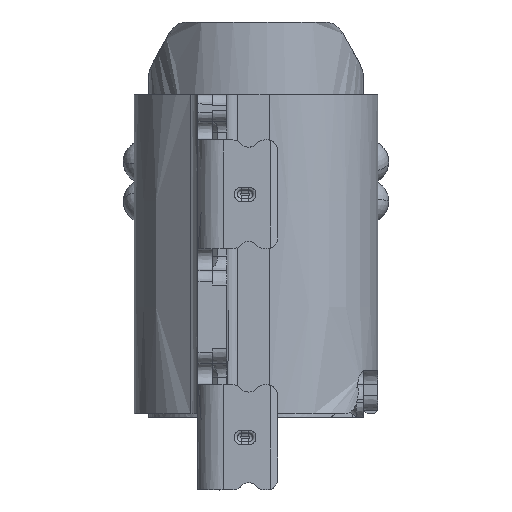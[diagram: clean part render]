
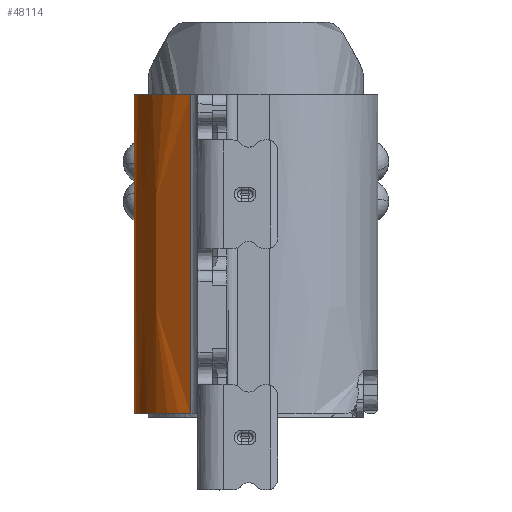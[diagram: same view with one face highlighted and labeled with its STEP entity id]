
A CAD part, left-side view. The second image highlights one B-rep face of the part: STEP entity #48114.
In plain terms, the highlighted free-form (B-spline) face has degree [3, 3] with [8, 4] control points.
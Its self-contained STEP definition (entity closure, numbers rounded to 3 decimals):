
#769 = CARTESIAN_POINT ( 'NONE',  ( -4.514, 0.904, 4.2 ) ) ;
#3689 = CARTESIAN_POINT ( 'NONE',  ( -4.478, 0.974, 1.237 ) ) ;
#4418 = CARTESIAN_POINT ( 'NONE',  ( -4.109, 1.389, 2.763 ) ) ;
#4727 = B_SPLINE_CURVE_WITH_KNOTS ( 'NONE', 3,
 ( #134774, #78857, #34178, #76667, #65496, #78129 ),
 .UNSPECIFIED., .F., .F.,
 ( 4, 2, 4 ),
 ( 0., 0.5, 1. ),
 .UNSPECIFIED. ) ;
#8643 = B_SPLINE_CURVE_WITH_KNOTS ( 'NONE', 3,
 ( #99159, #131973, #108855, #109605 ),
 .UNSPECIFIED., .F., .F.,
 ( 4, 4 ),
 ( 0., 1. ),
 .UNSPECIFIED. ) ;
#15620 = CARTESIAN_POINT ( 'NONE',  ( -3.82, 1.559, 4.288 ) ) ;
#23651 = CARTESIAN_POINT ( 'NONE',  ( -3.2, 1.68, 4.2 ) ) ;
#26806 = CARTESIAN_POINT ( 'NONE',  ( -3.168, 1.68, 2.763 ) ) ;
#34178 = CARTESIAN_POINT ( 'NONE',  ( -4.194, 1.335, 4.2 ) ) ;
#35551 = CARTESIAN_POINT ( 'NONE',  ( -4.384, 1.139, -0.2 ) ) ;
#37267 = CARTESIAN_POINT ( 'NONE',  ( -3.279, 1.682, 2.763 ) ) ;
#38586 = ORIENTED_EDGE ( 'NONE', *, *, #50860, .F. ) ;
#39462 = CARTESIAN_POINT ( 'NONE',  ( -4.353, 1.159, -0.288 ) ) ;
#40356 = VERTEX_POINT ( 'NONE', #67581 ) ;
#45319 = EDGE_CURVE ( 'NONE', #88443, #145359, #48064, .T. ) ;
#46287 = ORIENTED_EDGE ( 'NONE', *, *, #45319, .F. ) ;
#48064 = B_SPLINE_CURVE_WITH_KNOTS ( 'NONE', 3,
 ( #69062, #114502, #93628, #137620, #35551, #80972 ),
 .UNSPECIFIED., .F., .F.,
 ( 4, 2, 4 ),
 ( 0., 0.5, 1. ),
 .UNSPECIFIED. ) ;
#48114 = ADVANCED_FACE ( 'NONE', ( #128867 ), #76878, .F. ) ;
#48176 = CARTESIAN_POINT ( 'NONE',  ( -3.2, 1.68, -0.2 ) ) ;
#49181 = CARTESIAN_POINT ( 'NONE',  ( -3.501, 1.662, 1.237 ) ) ;
#49908 = CARTESIAN_POINT ( 'NONE',  ( -4.353, 1.159, 2.763 ) ) ;
#50528 = VERTEX_POINT ( 'NONE', #769 ) ;
#50860 = EDGE_CURVE ( 'NONE', #50528, #40356, #4727, .T. ) ;
#53609 = EDGE_CURVE ( 'NONE', #40356, #88443, #83757, .T. ) ;
#59648 = CARTESIAN_POINT ( 'NONE',  ( -4.478, 0.974, 4.288 ) ) ;
#60378 = CARTESIAN_POINT ( 'NONE',  ( -3.168, 1.68, 4.288 ) ) ;
#60976 = CARTESIAN_POINT ( 'NONE',  ( -4.514, 0.904, -0.2 ) ) ;
#61107 = CARTESIAN_POINT ( 'NONE',  ( -4.353, 1.159, 4.288 ) ) ;
#65496 = CARTESIAN_POINT ( 'NONE',  ( -3.468, 1.68, 4.2 ) ) ;
#67322 = CARTESIAN_POINT ( 'NONE',  ( -3.2, 1.68, -0.2 ) ) ;
#67581 = CARTESIAN_POINT ( 'NONE',  ( -3.2, 1.68, 4.2 ) ) ;
#69062 = CARTESIAN_POINT ( 'NONE',  ( -3.2, 1.68, -0.2 ) ) ;
#70779 = CARTESIAN_POINT ( 'NONE',  ( -4.353, 1.159, 1.237 ) ) ;
#71512 = CARTESIAN_POINT ( 'NONE',  ( -4.529, 0.875, 1.237 ) ) ;
#72241 = CARTESIAN_POINT ( 'NONE',  ( -3.501, 1.662, -0.288 ) ) ;
#74950 = ORIENTED_EDGE ( 'NONE', *, *, #121111, .T. ) ;
#76667 = CARTESIAN_POINT ( 'NONE',  ( -3.732, 1.608, 4.2 ) ) ;
#76878 = B_SPLINE_SURFACE_WITH_KNOTS ( 'NONE', 3, 3, ( 
 ( #96078, #84160, #26806, #60378 ),
 ( #141528, #96820, #37267, #95343 ),
 ( #72241, #49181, #107965, #117659 ),
 ( #85629, #105767, #131095, #15620 ),
 ( #139346, #93886, #4418, #140796 ),
 ( #39462, #70779, #49908, #61107 ),
 ( #129618, #3689, #116209, #59648 ),
 ( #84901, #71512, #116938, #130357 ) ),
 .UNSPECIFIED., .F., .F., .F.,
 ( 4, 1, 1, 1, 1, 4 ),
 ( 4, 4 ),
 ( 1.549, 1.771, 1.994, 2.216, 2.438, 2.66 ),
 ( 0., 4.576 ),
 .UNSPECIFIED. ) ;
#77750 = EDGE_LOOP ( 'NONE', ( #46287, #133438, #38586, #74950 ) ) ;
#78129 = CARTESIAN_POINT ( 'NONE',  ( -3.2, 1.68, 4.2 ) ) ;
#78857 = CARTESIAN_POINT ( 'NONE',  ( -4.384, 1.139, 4.2 ) ) ;
#80972 = CARTESIAN_POINT ( 'NONE',  ( -4.514, 0.904, -0.2 ) ) ;
#83757 = B_SPLINE_CURVE_WITH_KNOTS ( 'NONE', 1,
 ( #23651, #48176 ),
 .UNSPECIFIED., .F., .F.,
 ( 2, 2 ),
 ( 0., 1. ),
 .UNSPECIFIED. ) ;
#84160 = CARTESIAN_POINT ( 'NONE',  ( -3.168, 1.68, 1.237 ) ) ;
#84901 = CARTESIAN_POINT ( 'NONE',  ( -4.529, 0.875, -0.288 ) ) ;
#85629 = CARTESIAN_POINT ( 'NONE',  ( -3.82, 1.559, -0.288 ) ) ;
#88443 = VERTEX_POINT ( 'NONE', #67322 ) ;
#93628 = CARTESIAN_POINT ( 'NONE',  ( -3.732, 1.608, -0.2 ) ) ;
#93886 = CARTESIAN_POINT ( 'NONE',  ( -4.109, 1.389, 1.237 ) ) ;
#95343 = CARTESIAN_POINT ( 'NONE',  ( -3.279, 1.682, 4.288 ) ) ;
#96078 = CARTESIAN_POINT ( 'NONE',  ( -3.168, 1.68, -0.288 ) ) ;
#96820 = CARTESIAN_POINT ( 'NONE',  ( -3.279, 1.682, 1.237 ) ) ;
#99159 = CARTESIAN_POINT ( 'NONE',  ( -4.514, 0.904, 4.2 ) ) ;
#105767 = CARTESIAN_POINT ( 'NONE',  ( -3.82, 1.559, 1.237 ) ) ;
#107965 = CARTESIAN_POINT ( 'NONE',  ( -3.501, 1.662, 2.763 ) ) ;
#108855 = CARTESIAN_POINT ( 'NONE',  ( -4.514, 0.904, 1.267 ) ) ;
#109605 = CARTESIAN_POINT ( 'NONE',  ( -4.514, 0.904, -0.2 ) ) ;
#114502 = CARTESIAN_POINT ( 'NONE',  ( -3.468, 1.68, -0.2 ) ) ;
#116209 = CARTESIAN_POINT ( 'NONE',  ( -4.478, 0.974, 2.763 ) ) ;
#116938 = CARTESIAN_POINT ( 'NONE',  ( -4.529, 0.875, 2.763 ) ) ;
#117659 = CARTESIAN_POINT ( 'NONE',  ( -3.501, 1.662, 4.288 ) ) ;
#121111 = EDGE_CURVE ( 'NONE', #50528, #145359, #8643, .T. ) ;
#128867 = FACE_OUTER_BOUND ( 'NONE', #77750, .T. ) ;
#129618 = CARTESIAN_POINT ( 'NONE',  ( -4.478, 0.974, -0.288 ) ) ;
#130357 = CARTESIAN_POINT ( 'NONE',  ( -4.529, 0.875, 4.288 ) ) ;
#131095 = CARTESIAN_POINT ( 'NONE',  ( -3.82, 1.559, 2.763 ) ) ;
#131973 = CARTESIAN_POINT ( 'NONE',  ( -4.514, 0.904, 2.733 ) ) ;
#133438 = ORIENTED_EDGE ( 'NONE', *, *, #53609, .F. ) ;
#134774 = CARTESIAN_POINT ( 'NONE',  ( -4.514, 0.904, 4.2 ) ) ;
#137620 = CARTESIAN_POINT ( 'NONE',  ( -4.194, 1.335, -0.2 ) ) ;
#139346 = CARTESIAN_POINT ( 'NONE',  ( -4.109, 1.389, -0.288 ) ) ;
#140796 = CARTESIAN_POINT ( 'NONE',  ( -4.109, 1.389, 4.288 ) ) ;
#141528 = CARTESIAN_POINT ( 'NONE',  ( -3.279, 1.682, -0.288 ) ) ;
#145359 = VERTEX_POINT ( 'NONE', #60976 ) ;
